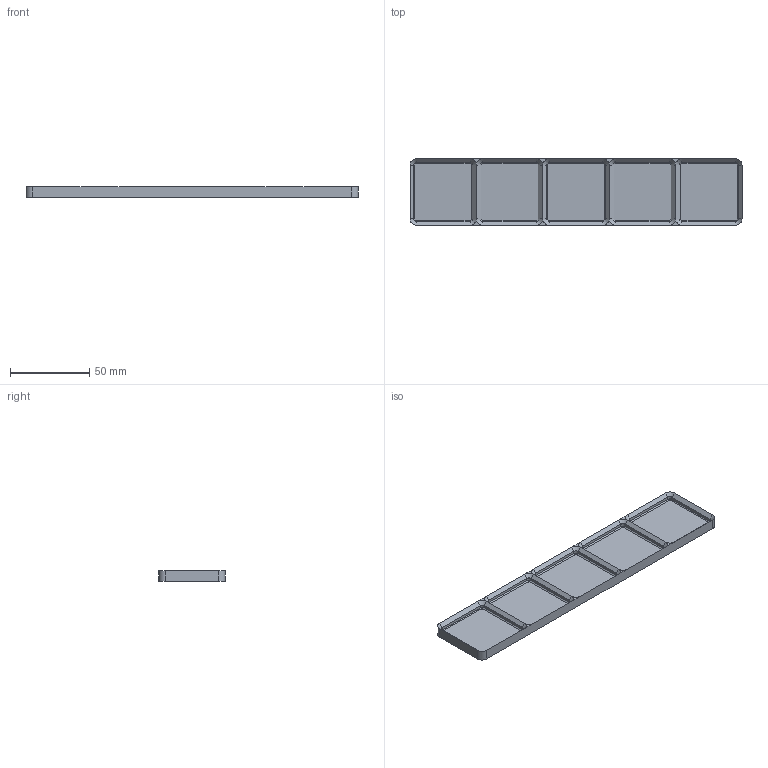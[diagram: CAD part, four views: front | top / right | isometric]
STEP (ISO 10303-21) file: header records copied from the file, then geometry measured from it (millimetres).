
FILE_DESCRIPTION(('Open CASCADE Model'),'2;1');
FILE_NAME('baseplate_5x1_extension','2026-11-03T10:51:22',('Author'),( 'Open CASCADE'),'Open CASCADE STEP processor 8.0','build123d', 'Unknown');
FILE_SCHEMA(('AUTOMOTIVE_DESIGN { 1 0 10303 214 1 1 1 1 }'));
Length unit declared in the file: millimetre
Products named in the file (1): baseplate_5x1_extension
Bounding box: 210 x 42 x 6.65 mm (x, y, z)
Volume: 24006 mm3; surface area: 23145.3 mm2
Topology: 1 solids, 1 shells, 142 faces, 300 edges, 160 vertices
Faces by surface type: plane 78, cone 40, cylinder 24
Entity records: 7194 total; most frequent: CARTESIAN_POINT 1567, DIRECTION 906, ORIENTED_EDGE 600, PCURVE 600, DEFINITIONAL_REPRESENTATION 600, LINE 412, VECTOR 412, B_SPLINE_CURVE_WITH_KNOTS 364
